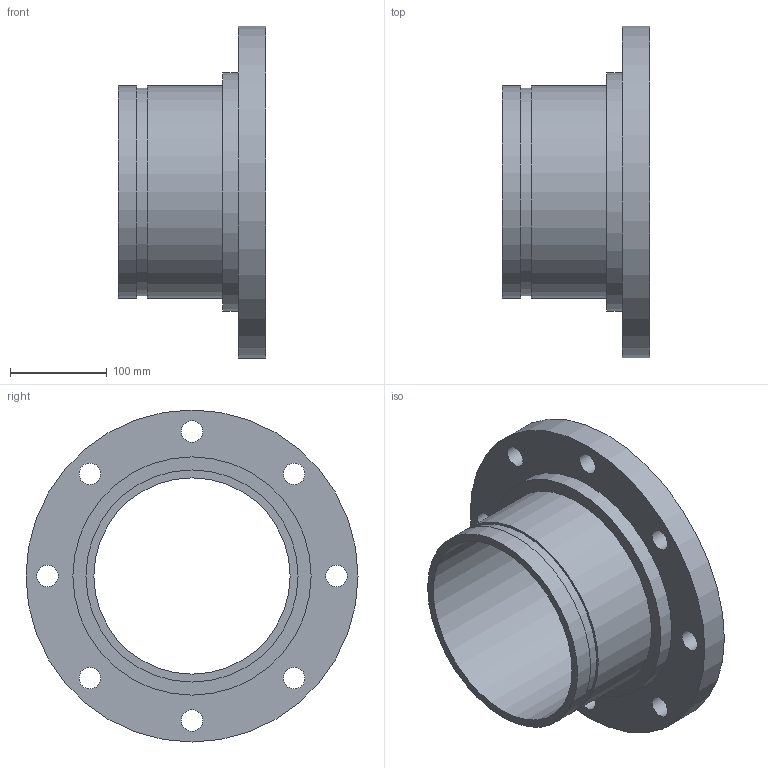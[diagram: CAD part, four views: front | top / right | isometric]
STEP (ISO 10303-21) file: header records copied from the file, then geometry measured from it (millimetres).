
FILE_DESCRIPTION(/* description */ ('VIC FLANGE ADAPTER No 45F','CAx-IF Rec.Pracs.---Representation and Presentation of Product Manufacturing Information (PMI)---4.0---2014-10-13'),/* implementation_level */ '2;1');
FILE_NAME(/* name */ 'C:\Users\kkamble\AppData\Roaming\Autodesk\ApplicationPlugins\Back Up\Victaulic_IPS_Flanged Adapter Nipple_CL 150 FF_No 45F (OGSxFLG)\Victaulic_IPS_Flanged Adapter Nipple_CL 150 FF_No 45F (OGSxFLG)_8 (200).stp',/* time_stamp */ '2020-07-26T22:23:11+06:00',/* author */ ('CONSTRUCTION PIPING SERVICES'),/* organization */ ('Victaulic'),/* preprocessor_version */ 'ST-DEVELOPER v17.2',/* originating_system */ 'Autodesk Inventor 2019',/* authorisation */ '');
FILE_SCHEMA (('AP242_MANAGED_MODEL_BASED_3D_ENGINEERING_MIM_LF { 1 0 10303 442 1 1 4 }'));
Length unit declared in the file: inch
Products named in the file (1): 045F-08.0
Bounding box: 152.4 x 342.9 x 342.9 mm (x, y, z)
Volume: 2431760.2 mm3; surface area: 347237.4 mm2
Topology: 1 solids, 1 shells, 20 faces, 54 edges, 40 vertices
Faces by surface type: cylinder 14, plane 6
Full cylindrical faces by diameter (mm): 22.352 x8, 202.717 x1, 214.401 x1, 219.075 x2, 246.126 x1, 342.9 x1
Entity records: 782 total; most frequent: DIRECTION 136, CARTESIAN_POINT 115, ORIENTED_EDGE 108, AXIS2_PLACEMENT_3D 61, EDGE_CURVE 54, EDGE_LOOP 42, CIRCLE 40, VERTEX_POINT 40
